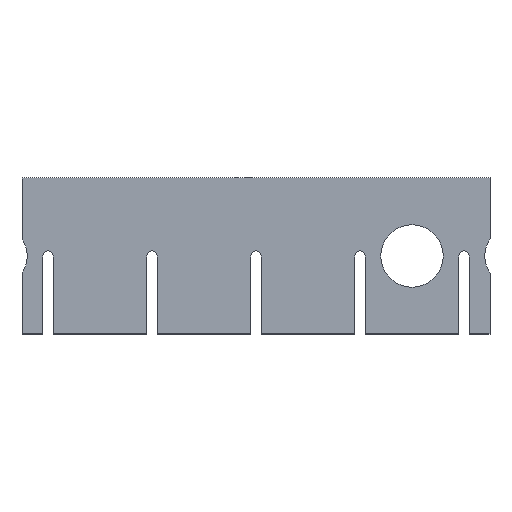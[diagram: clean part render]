
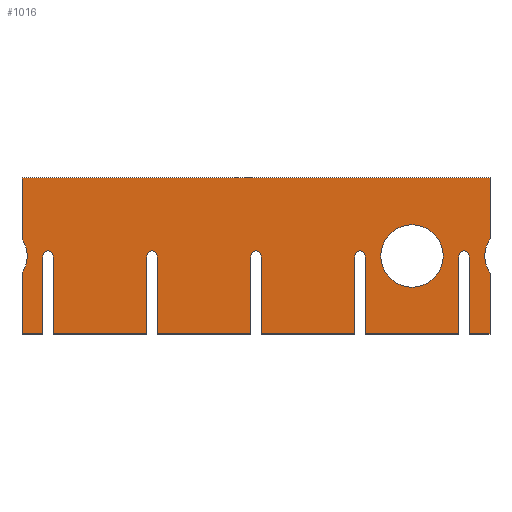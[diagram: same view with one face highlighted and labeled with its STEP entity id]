
A CAD part, top view. The second image highlights one B-rep face of the part: STEP entity #1016.
In plain terms, the highlighted planar face has unit normal (0, 0, 1).
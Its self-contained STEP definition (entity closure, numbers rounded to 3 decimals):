
#73=CARTESIAN_POINT('',(257.175,47.625,6.35));
#74=VERTEX_POINT('',#73);
#75=CARTESIAN_POINT('',(238.125,47.625,6.35));
#76=DIRECTION('',(0.0,0.0,-1.0));
#77=DIRECTION('',(-1.0,0.0,0.0));
#78=AXIS2_PLACEMENT_3D('',#75,#76,#77);
#79=CIRCLE('',#78,19.05);
#80=EDGE_CURVE('',#74,#74,#79,.T.);
#111=CARTESIAN_POINT('',(146.05,0.0,6.35));
#112=VERTEX_POINT('',#111);
#119=CARTESIAN_POINT('',(146.05,47.625,6.35));
#120=VERTEX_POINT('',#119);
#121=CARTESIAN_POINT('',(146.05,47.625,6.35));
#122=DIRECTION('',(0.0,-1.0,0.0));
#123=VECTOR('',#122,47.625);
#124=LINE('',#121,#123);
#125=EDGE_CURVE('',#120,#112,#124,.T.);
#151=CARTESIAN_POINT('',(139.7,47.625,6.35));
#152=VERTEX_POINT('',#151);
#153=CARTESIAN_POINT('',(142.875,47.625,6.35));
#154=DIRECTION('',(0.0,0.0,-1.0));
#155=DIRECTION('',(-1.0,0.0,0.0));
#156=AXIS2_PLACEMENT_3D('',#153,#154,#155);
#157=CIRCLE('',#156,3.175);
#158=EDGE_CURVE('',#152,#120,#157,.T.);
#183=CARTESIAN_POINT('',(139.7,0.0,6.35));
#184=VERTEX_POINT('',#183);
#185=CARTESIAN_POINT('',(139.7,0.0,6.35));
#186=DIRECTION('',(0.0,1.0,0.0));
#187=VECTOR('',#186,47.625);
#188=LINE('',#185,#187);
#189=EDGE_CURVE('',#184,#152,#188,.T.);
#214=CARTESIAN_POINT('',(82.55,0.0,6.35));
#215=VERTEX_POINT('',#214);
#216=CARTESIAN_POINT('',(82.55,0.0,6.35));
#217=DIRECTION('',(1.0,0.0,0.0));
#218=VECTOR('',#217,57.15);
#219=LINE('',#216,#218);
#220=EDGE_CURVE('',#215,#184,#219,.T.);
#245=CARTESIAN_POINT('',(82.55,47.625,6.35));
#246=VERTEX_POINT('',#245);
#247=CARTESIAN_POINT('',(82.55,47.625,6.35));
#248=DIRECTION('',(0.0,-1.0,0.0));
#249=VECTOR('',#248,47.625);
#250=LINE('',#247,#249);
#251=EDGE_CURVE('',#246,#215,#250,.T.);
#277=CARTESIAN_POINT('',(76.2,47.625,6.35));
#278=VERTEX_POINT('',#277);
#279=CARTESIAN_POINT('',(79.375,47.625,6.35));
#280=DIRECTION('',(0.0,0.0,-1.0));
#281=DIRECTION('',(-1.0,0.0,0.0));
#282=AXIS2_PLACEMENT_3D('',#279,#280,#281);
#283=CIRCLE('',#282,3.175);
#284=EDGE_CURVE('',#278,#246,#283,.T.);
#309=CARTESIAN_POINT('',(76.2,0.0,6.35));
#310=VERTEX_POINT('',#309);
#311=CARTESIAN_POINT('',(76.2,0.0,6.35));
#312=DIRECTION('',(0.0,1.0,0.0));
#313=VECTOR('',#312,47.625);
#314=LINE('',#311,#313);
#315=EDGE_CURVE('',#310,#278,#314,.T.);
#340=CARTESIAN_POINT('',(19.05,0.0,6.35));
#341=VERTEX_POINT('',#340);
#342=CARTESIAN_POINT('',(19.05,0.0,6.35));
#343=DIRECTION('',(1.0,0.0,0.0));
#344=VECTOR('',#343,57.15);
#345=LINE('',#342,#344);
#346=EDGE_CURVE('',#341,#310,#345,.T.);
#371=CARTESIAN_POINT('',(19.05,47.625,6.35));
#372=VERTEX_POINT('',#371);
#373=CARTESIAN_POINT('',(19.05,47.625,6.35));
#374=DIRECTION('',(0.0,-1.0,0.0));
#375=VECTOR('',#374,47.625);
#376=LINE('',#373,#375);
#377=EDGE_CURVE('',#372,#341,#376,.T.);
#403=CARTESIAN_POINT('',(12.7,47.625,6.35));
#404=VERTEX_POINT('',#403);
#405=CARTESIAN_POINT('',(15.875,47.625,6.35));
#406=DIRECTION('',(0.0,0.0,-1.0));
#407=DIRECTION('',(-1.0,0.0,0.0));
#408=AXIS2_PLACEMENT_3D('',#405,#406,#407);
#409=CIRCLE('',#408,3.175);
#410=EDGE_CURVE('',#404,#372,#409,.T.);
#435=CARTESIAN_POINT('',(12.7,0.0,6.35));
#436=VERTEX_POINT('',#435);
#437=CARTESIAN_POINT('',(12.7,0.0,6.35));
#438=DIRECTION('',(0.0,1.0,0.0));
#439=VECTOR('',#438,47.625);
#440=LINE('',#437,#439);
#441=EDGE_CURVE('',#436,#404,#440,.T.);
#466=CARTESIAN_POINT('',(0.0,0.0,6.35));
#467=VERTEX_POINT('',#466);
#468=CARTESIAN_POINT('',(0.0,0.0,6.35));
#469=DIRECTION('',(1.0,0.0,0.0));
#470=VECTOR('',#469,12.7);
#471=LINE('',#468,#470);
#472=EDGE_CURVE('',#467,#436,#471,.T.);
#497=CARTESIAN_POINT('',(0.,37.095,6.35));
#498=VERTEX_POINT('',#497);
#499=CARTESIAN_POINT('',(0.,37.095,6.35));
#500=DIRECTION('',(0.0,-1.0,0.0));
#501=VECTOR('',#500,37.095);
#502=LINE('',#499,#501);
#503=EDGE_CURVE('',#498,#467,#502,.T.);
#529=CARTESIAN_POINT('',(0.0,58.155,6.35));
#530=VERTEX_POINT('',#529);
#531=CARTESIAN_POINT('',(-15.875,47.625,6.35));
#532=DIRECTION('',(0.0,0.0,-1.0));
#533=DIRECTION('',(-0.833,0.553,0.0));
#534=AXIS2_PLACEMENT_3D('',#531,#532,#533);
#535=CIRCLE('',#534,19.05);
#536=EDGE_CURVE('',#530,#498,#535,.T.);
#561=CARTESIAN_POINT('',(0.0,95.25,6.35));
#562=VERTEX_POINT('',#561);
#563=CARTESIAN_POINT('',(0.0,95.25,6.35));
#564=DIRECTION('',(0.0,-1.0,0.0));
#565=VECTOR('',#564,37.095);
#566=LINE('',#563,#565);
#567=EDGE_CURVE('',#562,#530,#566,.T.);
#594=CARTESIAN_POINT('',(273.05,47.625,6.35));
#595=VERTEX_POINT('',#594);
#602=CARTESIAN_POINT('',(266.7,47.625,6.35));
#603=VERTEX_POINT('',#602);
#604=CARTESIAN_POINT('',(269.875,47.625,6.35));
#605=DIRECTION('',(0.0,0.0,-1.0));
#606=DIRECTION('',(-1.0,0.0,0.0));
#607=AXIS2_PLACEMENT_3D('',#604,#605,#606);
#608=CIRCLE('',#607,3.175);
#609=EDGE_CURVE('',#603,#595,#608,.T.);
#634=CARTESIAN_POINT('',(266.7,0.0,6.35));
#635=VERTEX_POINT('',#634);
#636=CARTESIAN_POINT('',(266.7,0.0,6.35));
#637=DIRECTION('',(0.0,1.0,0.0));
#638=VECTOR('',#637,47.625);
#639=LINE('',#636,#638);
#640=EDGE_CURVE('',#635,#603,#639,.T.);
#665=CARTESIAN_POINT('',(209.55,0.0,6.35));
#666=VERTEX_POINT('',#665);
#667=CARTESIAN_POINT('',(209.55,0.0,6.35));
#668=DIRECTION('',(1.0,0.0,0.0));
#669=VECTOR('',#668,57.15);
#670=LINE('',#667,#669);
#671=EDGE_CURVE('',#666,#635,#670,.T.);
#696=CARTESIAN_POINT('',(209.55,47.625,6.35));
#697=VERTEX_POINT('',#696);
#698=CARTESIAN_POINT('',(209.55,47.625,6.35));
#699=DIRECTION('',(0.0,-1.0,0.0));
#700=VECTOR('',#699,47.625);
#701=LINE('',#698,#700);
#702=EDGE_CURVE('',#697,#666,#701,.T.);
#728=CARTESIAN_POINT('',(203.2,47.625,6.35));
#729=VERTEX_POINT('',#728);
#730=CARTESIAN_POINT('',(206.375,47.625,6.35));
#731=DIRECTION('',(0.0,0.0,-1.0));
#732=DIRECTION('',(-1.0,0.0,0.0));
#733=AXIS2_PLACEMENT_3D('',#730,#731,#732);
#734=CIRCLE('',#733,3.175);
#735=EDGE_CURVE('',#729,#697,#734,.T.);
#760=CARTESIAN_POINT('',(203.2,0.0,6.35));
#761=VERTEX_POINT('',#760);
#762=CARTESIAN_POINT('',(203.2,0.0,6.35));
#763=DIRECTION('',(0.0,1.0,0.0));
#764=VECTOR('',#763,47.625);
#765=LINE('',#762,#764);
#766=EDGE_CURVE('',#761,#729,#765,.T.);
#792=CARTESIAN_POINT('',(285.75,95.25,6.35));
#793=VERTEX_POINT('',#792);
#800=CARTESIAN_POINT('',(285.75,58.155,6.35));
#801=VERTEX_POINT('',#800);
#802=CARTESIAN_POINT('',(285.75,58.155,6.35));
#803=DIRECTION('',(0.0,1.0,0.0));
#804=VECTOR('',#803,37.095);
#805=LINE('',#802,#804);
#806=EDGE_CURVE('',#801,#793,#805,.T.);
#832=CARTESIAN_POINT('',(285.75,37.095,6.35));
#833=VERTEX_POINT('',#832);
#834=CARTESIAN_POINT('',(301.625,47.625,6.35));
#835=DIRECTION('',(0.0,0.0,-1.0));
#836=DIRECTION('',(0.833,-0.553,0.0));
#837=AXIS2_PLACEMENT_3D('',#834,#835,#836);
#838=CIRCLE('',#837,19.05);
#839=EDGE_CURVE('',#833,#801,#838,.T.);
#864=CARTESIAN_POINT('',(285.75,0.0,6.35));
#865=VERTEX_POINT('',#864);
#866=CARTESIAN_POINT('',(285.75,0.0,6.35));
#867=DIRECTION('',(0.0,1.0,0.0));
#868=VECTOR('',#867,37.095);
#869=LINE('',#866,#868);
#870=EDGE_CURVE('',#865,#833,#869,.T.);
#895=CARTESIAN_POINT('',(273.05,0.0,6.35));
#896=VERTEX_POINT('',#895);
#897=CARTESIAN_POINT('',(273.05,0.0,6.35));
#898=DIRECTION('',(1.0,0.0,0.0));
#899=VECTOR('',#898,12.7);
#900=LINE('',#897,#899);
#901=EDGE_CURVE('',#896,#865,#900,.T.);
#924=CARTESIAN_POINT('',(273.05,47.625,6.35));
#925=DIRECTION('',(0.0,-1.0,0.0));
#926=VECTOR('',#925,47.625);
#927=LINE('',#924,#926);
#928=EDGE_CURVE('',#595,#896,#927,.T.);
#946=CARTESIAN_POINT('',(146.05,0.0,6.35));
#947=DIRECTION('',(1.0,0.0,0.0));
#948=VECTOR('',#947,57.15);
#949=LINE('',#946,#948);
#950=EDGE_CURVE('',#112,#761,#949,.T.);
#968=CARTESIAN_POINT('',(285.75,95.25,6.35));
#969=DIRECTION('',(-1.0,0.0,0.0));
#970=VECTOR('',#969,285.75);
#971=LINE('',#968,#970);
#972=EDGE_CURVE('',#793,#562,#971,.T.);
#978=CARTESIAN_POINT('',(174.625,47.625,6.35));
#979=DIRECTION('',(0.0,0.0,1.0));
#980=DIRECTION('',(1.0,0.0,0.0));
#981=AXIS2_PLACEMENT_3D('',#978,#979,#980);
#982=PLANE('',#981);
#983=ORIENTED_EDGE('',*,*,#972,.T.);
#984=ORIENTED_EDGE('',*,*,#567,.T.);
#985=ORIENTED_EDGE('',*,*,#536,.T.);
#986=ORIENTED_EDGE('',*,*,#503,.T.);
#987=ORIENTED_EDGE('',*,*,#472,.T.);
#988=ORIENTED_EDGE('',*,*,#441,.T.);
#989=ORIENTED_EDGE('',*,*,#410,.T.);
#990=ORIENTED_EDGE('',*,*,#377,.T.);
#991=ORIENTED_EDGE('',*,*,#346,.T.);
#992=ORIENTED_EDGE('',*,*,#315,.T.);
#993=ORIENTED_EDGE('',*,*,#284,.T.);
#994=ORIENTED_EDGE('',*,*,#251,.T.);
#995=ORIENTED_EDGE('',*,*,#220,.T.);
#996=ORIENTED_EDGE('',*,*,#189,.T.);
#997=ORIENTED_EDGE('',*,*,#158,.T.);
#998=ORIENTED_EDGE('',*,*,#125,.T.);
#999=ORIENTED_EDGE('',*,*,#950,.T.);
#1000=ORIENTED_EDGE('',*,*,#766,.T.);
#1001=ORIENTED_EDGE('',*,*,#735,.T.);
#1002=ORIENTED_EDGE('',*,*,#702,.T.);
#1003=ORIENTED_EDGE('',*,*,#671,.T.);
#1004=ORIENTED_EDGE('',*,*,#640,.T.);
#1005=ORIENTED_EDGE('',*,*,#609,.T.);
#1006=ORIENTED_EDGE('',*,*,#928,.T.);
#1007=ORIENTED_EDGE('',*,*,#901,.T.);
#1008=ORIENTED_EDGE('',*,*,#870,.T.);
#1009=ORIENTED_EDGE('',*,*,#839,.T.);
#1010=ORIENTED_EDGE('',*,*,#806,.T.);
#1011=EDGE_LOOP('',(#983,#984,#985,#986,#987,#988,#989,#990,#991,#992,#993,#994,#995,#996,#997,#998,#999,#1000,#1001,#1002,#1003,#1004,#1005,#1006,#1007,#1008,#1009,#1010));
#1012=FACE_OUTER_BOUND('',#1011,.T.);
#1013=ORIENTED_EDGE('',*,*,#80,.T.);
#1014=EDGE_LOOP('',(#1013));
#1015=FACE_BOUND('',#1014,.T.);
#1016=ADVANCED_FACE('',(#1012,#1015),#982,.T.);
